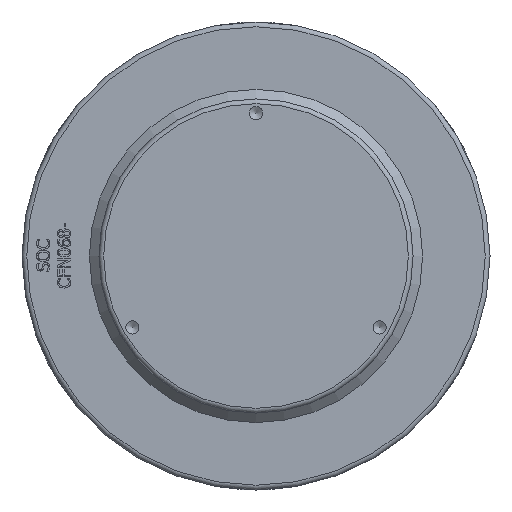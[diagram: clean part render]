
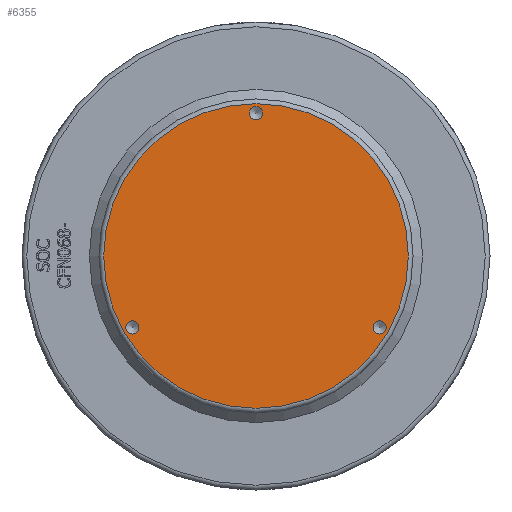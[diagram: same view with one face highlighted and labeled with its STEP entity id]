
A CAD part, front view. The second image highlights one B-rep face of the part: STEP entity #6355.
In plain terms, the highlighted planar face has unit normal (0, -1, 0) as drawn and (0, 1, 0) by its records, which use the part's own axes.
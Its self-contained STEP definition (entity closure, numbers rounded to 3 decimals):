
#87=PLANE('',#6672);
#1783=FACE_BOUND('',#2402,.T.);
#1784=FACE_BOUND('',#2403,.T.);
#1785=FACE_BOUND('',#2404,.T.);
#2014=FACE_OUTER_BOUND('',#2401,.T.);
#2401=EDGE_LOOP('',(#5188));
#2402=EDGE_LOOP('',(#5189));
#2403=EDGE_LOOP('',(#5190));
#2404=EDGE_LOOP('',(#5191));
#2637=CIRCLE('',#6603,4.188);
#2639=CIRCLE('',#6607,4.188);
#2641=CIRCLE('',#6611,4.188);
#2643=CIRCLE('',#6670,96.);
#2663=VERTEX_POINT('',#7596);
#2665=VERTEX_POINT('',#7602);
#2667=VERTEX_POINT('',#7608);
#2975=VERTEX_POINT('',#10002);
#3311=EDGE_CURVE('',#2663,#2663,#2637,.T.);
#3313=EDGE_CURVE('',#2665,#2665,#2639,.T.);
#3315=EDGE_CURVE('',#2667,#2667,#2641,.T.);
#3776=EDGE_CURVE('',#2975,#2975,#2643,.T.);
#5188=ORIENTED_EDGE('',*,*,#3776,.F.);
#5189=ORIENTED_EDGE('',*,*,#3311,.T.);
#5190=ORIENTED_EDGE('',*,*,#3313,.T.);
#5191=ORIENTED_EDGE('',*,*,#3315,.T.);
#6355=ADVANCED_FACE('',(#2014,#1783,#1784,#1785),#87,.T.);
#6603=AXIS2_PLACEMENT_3D('',#7597,#6783,#6784);
#6607=AXIS2_PLACEMENT_3D('',#7603,#6791,#6792);
#6611=AXIS2_PLACEMENT_3D('',#7609,#6799,#6800);
#6670=AXIS2_PLACEMENT_3D('',#10003,#7152,#7153);
#6672=AXIS2_PLACEMENT_3D('',#10006,#7156,#7157);
#6783=DIRECTION('center_axis',(0.,-1.,0.));
#6784=DIRECTION('ref_axis',(-0.5,0.,-0.866));
#6791=DIRECTION('center_axis',(0.,-1.,0.));
#6792=DIRECTION('ref_axis',(-0.5,0.,0.866));
#6799=DIRECTION('center_axis',(0.,-1.,0.));
#6800=DIRECTION('ref_axis',(1.,0.,0.));
#7152=DIRECTION('center_axis',(0.,-1.,0.));
#7153=DIRECTION('ref_axis',(-1.,0.,0.));
#7156=DIRECTION('center_axis',(0.,1.,0.));
#7157=DIRECTION('ref_axis',(0.,0.,1.));
#7596=CARTESIAN_POINT('',(75.848,178.5,-48.627));
#7597=CARTESIAN_POINT('Origin',(77.942,178.5,-45.));
#7602=CARTESIAN_POINT('',(-80.036,178.5,-41.373));
#7603=CARTESIAN_POINT('Origin',(-77.942,178.5,-45.));
#7608=CARTESIAN_POINT('',(4.188,178.5,90.));
#7609=CARTESIAN_POINT('Origin',(0.,178.5,90.));
#10002=CARTESIAN_POINT('',(96.,178.5,0.));
#10003=CARTESIAN_POINT('Origin',(0.,178.5,0.));
#10006=CARTESIAN_POINT('Origin',(99.,178.5,0.));
